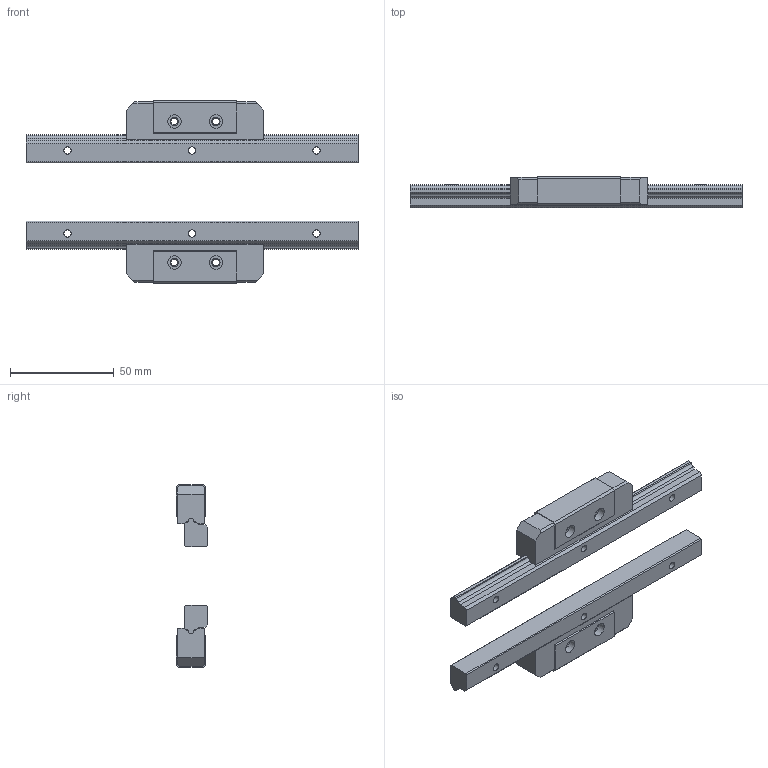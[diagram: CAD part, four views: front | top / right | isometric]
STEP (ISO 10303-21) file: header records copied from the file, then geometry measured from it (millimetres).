
FILE_DESCRIPTION(/* description */ ('STEP AP203'),/* implementation_level */ '2;1');
FILE_NAME(/* name */ 'HR1530-160L_G20_40_47_0_0_0',/* time_stamp */ '2024-05-21T10:47:20+02:00',/* author */ ('License CC BY-ND 4.0'),/* organization */ ('CADENAS'),/* preprocessor_version */ 'ST-DEVELOPER v19.3',/* originating_system */ 'PARTsolutions',/* authorisation */ ' ');
FILE_SCHEMA (('CONFIG_CONTROL_DESIGN'));
Length unit declared in the file: millimetre
Products named in the file (5): HR1530-160L_G20_40_47_0_0_0; HR1530116020-Rail; HR1530-Slider; HR1530116020-Rail2; HR1530-Slider2
Assembly tree (4 placements, depth 2):
  HR1530-160L_G20_40_47_0_0_0
    HR1530116020-Rail
    HR1530-Slider
    HR1530116020-Rail2
    HR1530-Slider2
Bounding box: 160 x 15 x 88 mm (x, y, z)
Volume: 70143.1 mm3; surface area: 25889.4 mm2
Topology: 4 solids, 4 shells, 166 faces, 427 edges, 279 vertices
Faces by surface type: plane 126, cylinder 30, cone 10
Full cylindrical faces by diameter (mm): 2 x2, 3.3 x4, 3.5 x6, 6 x6, 6.5 x4
Entity records: 4971 total; most frequent: CARTESIAN_POINT 841, DIRECTION 802, ORIENTED_EDGE 784, EDGE_CURVE 392, LINE 324, VECTOR 324, VERTEX_POINT 278, AXIS2_PLACEMENT_3D 239
